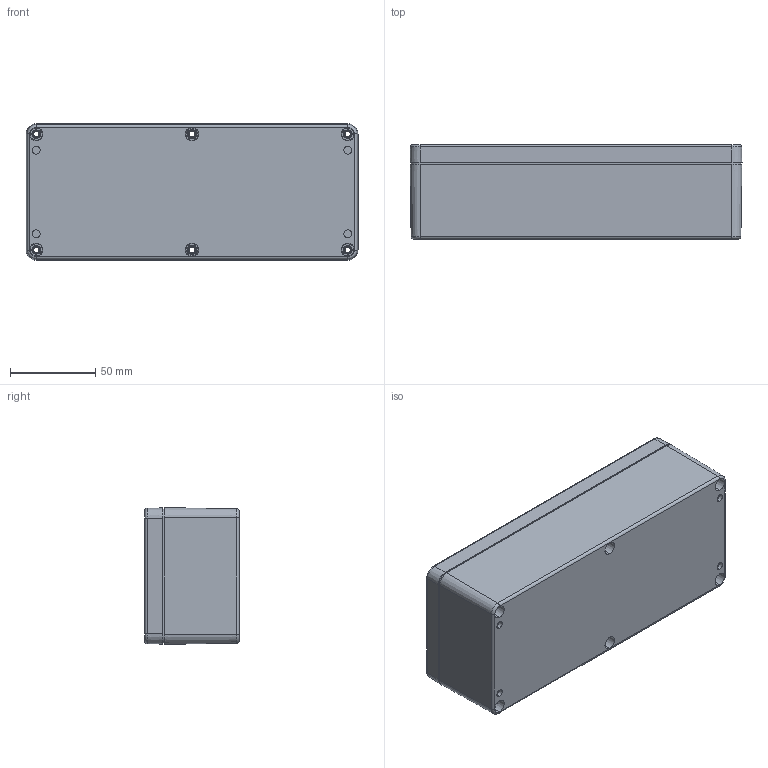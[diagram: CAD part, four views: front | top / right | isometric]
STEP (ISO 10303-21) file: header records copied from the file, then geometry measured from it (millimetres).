
FILE_DESCRIPTION (( 'STEP AP203' ), '1' );
FILE_NAME ('PE234.STEP', '2019-11-29T05:49:20', ( '' ), ( '' ), 'SwSTEP 2.0', 'SolidWorks 2020', '' );
FILE_SCHEMA (( 'CONFIG_CONTROL_DESIGN' ));
Length unit declared in the file: millimetre
Products named in the file (4): PE234
Assembly tree (3 placements, depth 2):
  PE234
    PE234
    PE234
    PE234
Bounding box: 195.1 x 55.3 x 80.27 mm (x, y, z)
Volume: 208629.3 mm3; surface area: 163246 mm2
Topology: 9 solids, 9 shells, 1429 faces, 3783 edges, 2452 vertices
Faces by surface type: bspline 460, cylinder 400, plane 318, cone 243, torus 8
Entity records: 49379 total; most frequent: CARTESIAN_POINT 16024, ORIENTED_EDGE 7530, DIRECTION 6039, EDGE_CURVE 3765, VERTEX_POINT 2452, AXIS2_PLACEMENT_3D 2237, EDGE_LOOP 1587, LINE 1565
